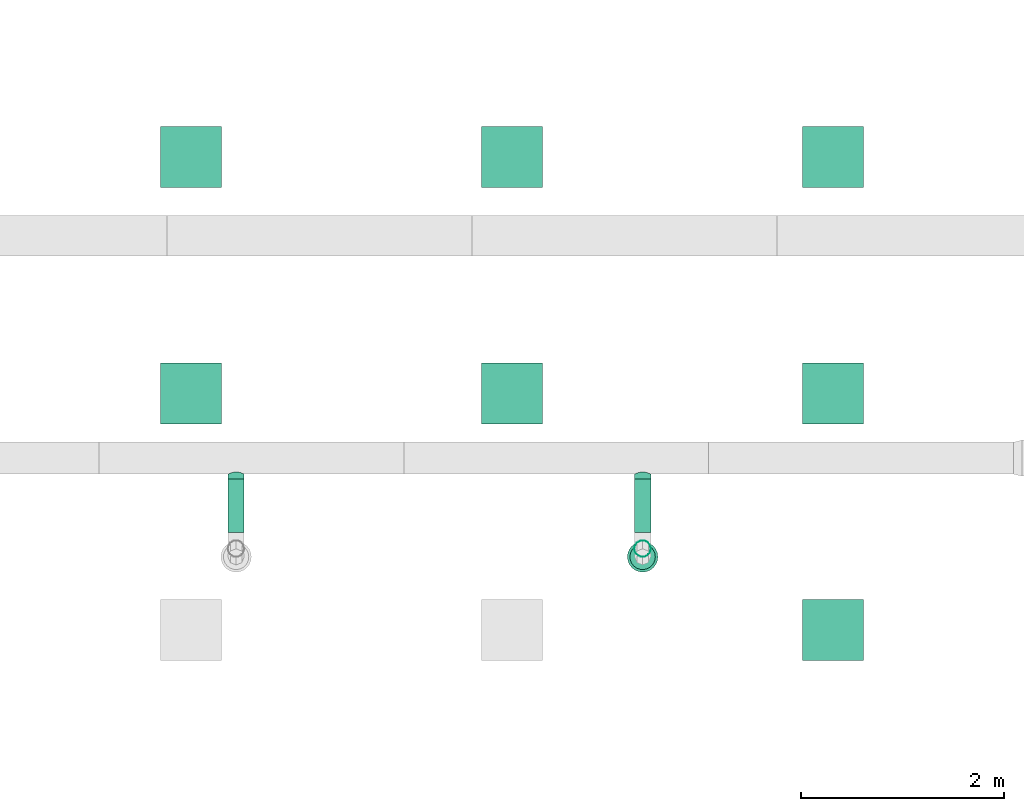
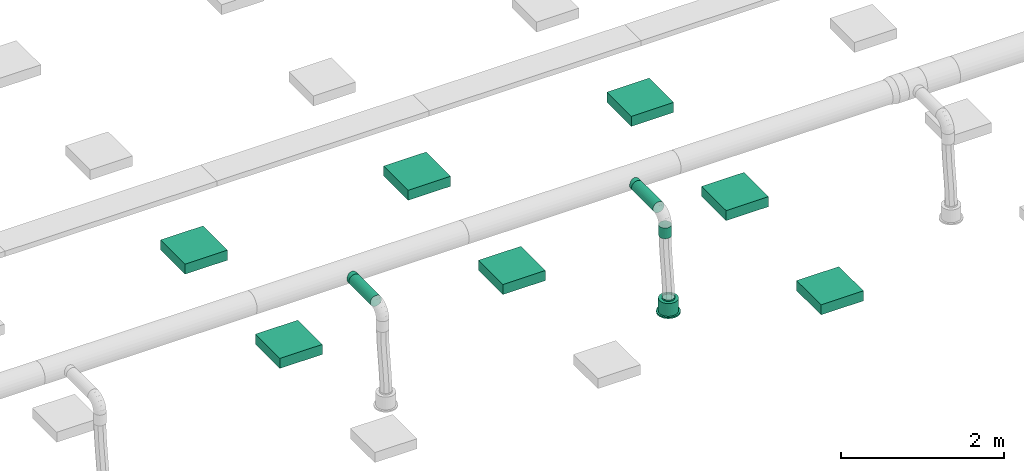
# One storey, part 23 of 374: 7 distribution elements, 5 flow segments, 1 flow terminal.
"""IFC2X3 building model written with IfcOpenShell, lengths in metres."""

from ifc_helpers import new_model, si_unit, direction, frame, frame_2d, origin, place, context, subcontext, project, spatial, rectangle, extrude, open_shell, surface_model, source, transform, mapped, element, save


model = new_model("IFC2X3")

# Units and contexts
model_context = context("Model", 3, precision=1e-05, world=origin(), true_north=direction((-0.4480736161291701, 0.8939966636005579)))
body_context = subcontext(model_context, "Body", "Model", "MODEL_VIEW")
ifc_project = project(units=[si_unit("LENGTHUNIT", "METRE"), si_unit("AREAUNIT", "SQUARE_METRE"), si_unit("VOLUMEUNIT", "CUBIC_METRE"), si_unit("PLANEANGLEUNIT", "RADIAN"), si_unit("THERMODYNAMICTEMPERATUREUNIT", "KELVIN"), si_unit("MASSUNIT", "GRAM", prefix="KILO"), si_unit("TIMEUNIT", "SECOND")], contexts=[model_context])

# Site, building, storey
site_placement = place(None, origin())
site = spatial("IfcSite", under=ifc_project, at=site_placement, Name="Site 1", CompositionType="ELEMENT")
building_placement = place(site_placement, origin())
building = spatial("IfcBuilding", under=site, at=building_placement, Name="Undefined", CompositionType="ELEMENT")
storey_placement = place(building_placement, origin())
storey = spatial("IfcBuildingStorey", under=building, at=storey_placement, Name="Rez de chauss\x8ee", CompositionType="ELEMENT", Elevation=0.0)

# Flow terminal
shared_shape_1 = source(origin(), body_context, "Body", "SurfaceModel", [
    surface_model("IfcFaceBasedSurfaceModel", [(0.0, 0.0, 0.0), (0.03915785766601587, 0.0, 0.0), (0.03915785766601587, 0.020000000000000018, 0.0), (3.552713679e-15, 0.020000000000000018, 0.0), (0.07698144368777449, 0.0, -0.010134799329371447), (0.07698144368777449, 0.020000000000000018, -0.010134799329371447), (0.11089314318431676, 0.0, -0.02971372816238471), (0.11089314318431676, 0.020000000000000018, -0.02971372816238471), (0.13858192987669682, 0.0, -0.05740251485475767), (0.13858192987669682, 0.020000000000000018, -0.05740251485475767), (0.15816085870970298, 0.0, -0.09131421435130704), (0.15816085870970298, 0.020000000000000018, -0.09131421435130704), (0.16829565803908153, 0.0, -0.12913780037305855), (0.16829565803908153, 0.020000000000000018, -0.12913780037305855), (0.16829565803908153, 0.0, -0.16829565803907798), (0.16829565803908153, 0.020000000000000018, -0.16829565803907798), (0.15816085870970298, 0.0, -0.20611924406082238), (0.15816085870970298, 0.020000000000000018, -0.20611924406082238), (0.13858192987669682, 0.0, -0.24003094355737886), (0.13858192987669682, 0.020000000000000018, -0.24003094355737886), (0.11089314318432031, 0.0, -0.2677197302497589), (0.11089314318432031, 0.020000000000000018, -0.2677197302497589), (0.07698144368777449, 0.0, -0.2872986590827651), (0.07698144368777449, 0.020000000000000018, -0.2872986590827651), (0.039157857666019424, 0.0, -0.29743345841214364), (0.039157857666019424, 0.020000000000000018, -0.29743345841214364), (3.552713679e-15, 0.0, -0.29743345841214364), (3.552713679e-15, 0.020000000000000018, -0.29743345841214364), (-0.03782358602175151, 0.0, -0.2872986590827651), (-0.03782358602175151, 0.020000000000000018, -0.2872986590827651), (-0.07173528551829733, 0.0, -0.2677197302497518), (-0.07173528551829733, 0.020000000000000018, -0.2677197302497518), (-0.0994240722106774, 0.0, -0.24003094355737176), (-0.0994240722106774, 0.020000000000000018, -0.24003094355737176), (-0.11900300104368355, 0.0, -0.2061192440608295), (-0.11900300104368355, 0.020000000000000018, -0.2061192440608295), (-0.1291378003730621, 0.0, -0.16829565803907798), (-0.1291378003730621, 0.020000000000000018, -0.16829565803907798), (-0.1291378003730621, 0.0, -0.12913780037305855), (-0.1291378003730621, 0.020000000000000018, -0.12913780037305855), (-0.11900300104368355, 0.0, -0.09131421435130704), (-0.11900300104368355, 0.020000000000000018, -0.09131421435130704), (-0.0994240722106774, 0.0, -0.05740251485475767), (-0.0994240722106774, 0.020000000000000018, -0.05740251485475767), (-0.07173528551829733, 0.0, -0.029713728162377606), (-0.07173528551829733, 0.020000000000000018, -0.029713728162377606), (-0.03782358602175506, 0.0, -0.010134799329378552), (-0.03782358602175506, 0.020000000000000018, -0.010134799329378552), (0.019578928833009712, 0.0, -0.14871672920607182), (0.019578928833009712, 0.020000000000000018, -0.14871672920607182), (0.003263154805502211, 0.020000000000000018, -0.02478612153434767), (0.035894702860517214, 0.020000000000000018, -0.02478612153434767), (0.035894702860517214, 0.20999999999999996, -0.02478612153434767), (0.003263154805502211, 0.20999999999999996, -0.02478612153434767), (0.06741435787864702, 0.020000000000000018, -0.033231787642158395), (0.06741435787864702, 0.20999999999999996, -0.033231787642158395), (0.0956741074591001, 0.020000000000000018, -0.04954756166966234), (0.0956741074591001, 0.20999999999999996, -0.04954756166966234), (0.11874809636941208, 0.020000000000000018, -0.07262155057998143), (0.11874809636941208, 0.20999999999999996, -0.07262155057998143), (0.13506387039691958, 0.020000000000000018, -0.10088130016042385), (0.13506387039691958, 0.20999999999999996, -0.10088130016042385), (0.1435095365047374, 0.020000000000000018, -0.13240095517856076), (0.1435095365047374, 0.20999999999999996, -0.13240095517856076), (0.1435095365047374, 0.020000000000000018, -0.16503250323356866), (0.1435095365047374, 0.20999999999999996, -0.16503250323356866), (0.13506387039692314, 0.020000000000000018, -0.19655215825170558), (0.13506387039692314, 0.20999999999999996, -0.19655215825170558), (0.11874809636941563, 0.020000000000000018, -0.2248119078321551), (0.11874809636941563, 0.20999999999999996, -0.2248119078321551), (0.09567410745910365, 0.020000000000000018, -0.24788589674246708), (0.09567410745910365, 0.20999999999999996, -0.24788589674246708), (0.06741435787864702, 0.020000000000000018, -0.26420167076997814), (0.06741435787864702, 0.20999999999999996, -0.26420167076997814), (0.035894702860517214, 0.020000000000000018, -0.27264733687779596), (0.035894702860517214, 0.20999999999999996, -0.27264733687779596), (0.0032631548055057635, 0.020000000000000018, -0.27264733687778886), (0.0032631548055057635, 0.20999999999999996, -0.27264733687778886), (-0.028256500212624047, 0.020000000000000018, -0.26420167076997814), (-0.028256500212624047, 0.20999999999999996, -0.26420167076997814), (-0.05651624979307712, 0.020000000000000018, -0.2478858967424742), (-0.05651624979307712, 0.20999999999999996, -0.2478858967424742), (-0.07959023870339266, 0.020000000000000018, -0.2248119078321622), (-0.07959023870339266, 0.20999999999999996, -0.2248119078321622), (-0.09590601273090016, 0.020000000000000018, -0.19655215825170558), (-0.09590601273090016, 0.20999999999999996, -0.19655215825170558), (-0.10435167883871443, 0.020000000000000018, -0.16503250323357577), (-0.10435167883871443, 0.20999999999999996, -0.16503250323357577), (-0.10435167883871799, 0.020000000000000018, -0.13240095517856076), (-0.10435167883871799, 0.20999999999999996, -0.13240095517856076), (-0.09590601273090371, 0.020000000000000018, -0.10088130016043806), (-0.09590601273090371, 0.20999999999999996, -0.10088130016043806), (-0.07959023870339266, 0.020000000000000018, -0.07262155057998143), (-0.07959023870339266, 0.20999999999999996, -0.07262155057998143), (-0.056516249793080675, 0.020000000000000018, -0.04954756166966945), (-0.056516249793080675, 0.20999999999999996, -0.04954756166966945), (-0.028256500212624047, 0.020000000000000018, -0.033231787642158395), (-0.028256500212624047, 0.20999999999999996, -0.033231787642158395), (0.019578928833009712, 0.20999999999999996, -0.14871672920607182), (0.009136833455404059, 0.20999999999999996, -0.06940114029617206), (0.030021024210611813, 0.20999999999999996, -0.06940114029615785), (0.030021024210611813, 0.22999999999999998, -0.06940114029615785), (0.009136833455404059, 0.22999999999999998, -0.06940114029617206), (0.05019360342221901, 0.20999999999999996, -0.07480636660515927), (0.05019360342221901, 0.22999999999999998, -0.07480636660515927), (0.06827984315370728, 0.20999999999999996, -0.08524846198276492), (0.06827984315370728, 0.22999999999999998, -0.08524846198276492), (0.0830471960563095, 0.20999999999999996, -0.10001581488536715), (0.0830471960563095, 0.22999999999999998, -0.10001581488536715), (0.0934892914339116, 0.20999999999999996, -0.11810205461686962), (0.0934892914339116, 0.22999999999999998, -0.11810205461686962), (0.09889451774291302, 0.20999999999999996, -0.13827463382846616), (0.09889451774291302, 0.22999999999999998, -0.13827463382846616), (0.09889451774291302, 0.20999999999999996, -0.15915882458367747), (0.09889451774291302, 0.22999999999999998, -0.15915882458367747), (0.09348929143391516, 0.20999999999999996, -0.179331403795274), (0.09348929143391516, 0.22999999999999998, -0.179331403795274), (0.0830471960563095, 0.20999999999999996, -0.19741764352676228), (0.0830471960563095, 0.22999999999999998, -0.19741764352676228), (0.06827984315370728, 0.20999999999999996, -0.2121849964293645), (0.06827984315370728, 0.22999999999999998, -0.2121849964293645), (0.05019360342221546, 0.20999999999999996, -0.22262709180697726), (0.05019360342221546, 0.22999999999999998, -0.22262709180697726), (0.030021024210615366, 0.20999999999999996, -0.22803231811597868), (0.030021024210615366, 0.22999999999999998, -0.22803231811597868), (0.009136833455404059, 0.20999999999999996, -0.22803231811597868), (0.009136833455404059, 0.22999999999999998, -0.22803231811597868), (-0.011035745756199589, 0.20999999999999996, -0.22262709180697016), (-0.011035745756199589, 0.22999999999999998, -0.22262709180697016), (-0.0291219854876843, 0.20999999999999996, -0.2121849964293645), (-0.0291219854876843, 0.22999999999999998, -0.2121849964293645), (-0.043889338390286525, 0.20999999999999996, -0.19741764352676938), (-0.043889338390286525, 0.22999999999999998, -0.19741764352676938), (-0.05433143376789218, 0.20999999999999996, -0.17933140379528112), (-0.05433143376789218, 0.22999999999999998, -0.17933140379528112), (-0.05973666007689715, 0.20999999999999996, -0.15915882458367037), (-0.05973666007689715, 0.22999999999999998, -0.15915882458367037), (-0.0597366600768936, 0.20999999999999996, -0.13827463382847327), (-0.0597366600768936, 0.22999999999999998, -0.13827463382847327), (-0.05433143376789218, 0.20999999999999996, -0.11810205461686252), (-0.05433143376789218, 0.22999999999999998, -0.11810205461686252), (-0.043889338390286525, 0.20999999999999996, -0.10001581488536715), (-0.043889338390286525, 0.22999999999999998, -0.10001581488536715), (-0.02912198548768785, 0.20999999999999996, -0.08524846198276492), (-0.02912198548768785, 0.22999999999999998, -0.08524846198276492), (-0.011035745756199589, 0.20999999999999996, -0.07480636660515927), (-0.011035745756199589, 0.22999999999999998, -0.07480636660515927)], [open_shell([[[0, 1, 2, 3]], [[1, 4, 5, 2]], [[4, 6, 7, 5]], [[6, 8, 9, 7]], [[8, 10, 11, 9]], [[10, 12, 13, 11]], [[12, 14, 15, 13]], [[14, 16, 17, 15]], [[16, 18, 19, 17]], [[18, 20, 21, 19]], [[20, 22, 23, 21]], [[22, 24, 25, 23]], [[24, 26, 27, 25]], [[26, 28, 29, 27]], [[28, 30, 31, 29]], [[30, 32, 33, 31]], [[32, 34, 35, 33]], [[34, 36, 37, 35]], [[36, 38, 39, 37]], [[38, 40, 41, 39]], [[40, 42, 43, 41]], [[42, 44, 45, 43]], [[44, 46, 47, 45]], [[46, 0, 3, 47]], [[48, 1, 0]], [[48, 4, 1]], [[48, 6, 4]], [[48, 8, 6]], [[48, 10, 8]], [[48, 12, 10]], [[48, 14, 12]], [[48, 16, 14]], [[48, 18, 16]], [[48, 20, 18]], [[48, 22, 20]], [[48, 24, 22]], [[48, 26, 24]], [[48, 28, 26]], [[48, 30, 28]], [[48, 32, 30]], [[48, 34, 32]], [[48, 36, 34]], [[48, 38, 36]], [[48, 40, 38]], [[48, 42, 40]], [[48, 44, 42]], [[48, 46, 44]], [[48, 0, 46]], [[49, 47, 3]], [[49, 45, 47]], [[49, 43, 45]], [[49, 41, 43]], [[49, 39, 41]], [[49, 37, 39]], [[49, 35, 37]], [[49, 33, 35]], [[49, 31, 33]], [[49, 29, 31]], [[49, 27, 29]], [[49, 25, 27]], [[49, 23, 25]], [[49, 21, 23]], [[49, 19, 21]], [[49, 17, 19]], [[49, 15, 17]], [[49, 13, 15]], [[49, 11, 13]], [[49, 9, 11]], [[49, 7, 9]], [[49, 5, 7]], [[49, 2, 5]], [[49, 3, 2]], [[50, 51, 52, 53]], [[51, 54, 55, 52]], [[54, 56, 57, 55]], [[56, 58, 59, 57]], [[58, 60, 61, 59]], [[60, 62, 63, 61]], [[62, 64, 65, 63]], [[64, 66, 67, 65]], [[66, 68, 69, 67]], [[68, 70, 71, 69]], [[70, 72, 73, 71]], [[72, 74, 75, 73]], [[74, 76, 77, 75]], [[76, 78, 79, 77]], [[78, 80, 81, 79]], [[80, 82, 83, 81]], [[82, 84, 85, 83]], [[84, 86, 87, 85]], [[86, 88, 89, 87]], [[88, 90, 91, 89]], [[90, 92, 93, 91]], [[92, 94, 95, 93]], [[94, 96, 97, 95]], [[96, 50, 53, 97]], [[49, 51, 50]], [[49, 54, 51]], [[49, 56, 54]], [[49, 58, 56]], [[49, 60, 58]], [[49, 62, 60]], [[49, 64, 62]], [[49, 66, 64]], [[49, 68, 66]], [[49, 70, 68]], [[49, 72, 70]], [[49, 74, 72]], [[49, 76, 74]], [[49, 78, 76]], [[49, 80, 78]], [[49, 82, 80]], [[49, 84, 82]], [[49, 86, 84]], [[49, 88, 86]], [[49, 90, 88]], [[49, 92, 90]], [[49, 94, 92]], [[49, 96, 94]], [[49, 50, 96]], [[98, 97, 53]], [[98, 95, 97]], [[98, 93, 95]], [[98, 91, 93]], [[98, 89, 91]], [[98, 87, 89]], [[98, 85, 87]], [[98, 83, 85]], [[98, 81, 83]], [[98, 79, 81]], [[98, 77, 79]], [[98, 75, 77]], [[98, 73, 75]], [[98, 71, 73]], [[98, 69, 71]], [[98, 67, 69]], [[98, 65, 67]], [[98, 63, 65]], [[98, 61, 63]], [[98, 59, 61]], [[98, 57, 59]], [[98, 55, 57]], [[98, 52, 55]], [[98, 53, 52]], [[99, 100, 101, 102]], [[100, 103, 104, 101]], [[103, 105, 106, 104]], [[105, 107, 108, 106]], [[107, 109, 110, 108]], [[109, 111, 112, 110]], [[111, 113, 114, 112]], [[113, 115, 116, 114]], [[115, 117, 118, 116]], [[117, 119, 120, 118]], [[119, 121, 122, 120]], [[121, 123, 124, 122]], [[123, 125, 126, 124]], [[125, 127, 128, 126]], [[127, 129, 130, 128]], [[129, 131, 132, 130]], [[131, 133, 134, 132]], [[133, 135, 136, 134]], [[135, 137, 138, 136]], [[137, 139, 140, 138]], [[139, 141, 142, 140]], [[141, 143, 144, 142]], [[143, 145, 146, 144]], [[145, 99, 102, 146]]])]),
])
flow_terminal_placement = place(storey_placement, origin())
element("IfcFlowTerminal", 1, at=flow_terminal_placement, inside=storey, Name="Air diffuseur - bouche", ObjectType="Air diffuseur - bouche", context=body_context, shape_type="MappedRepresentation", body=[
    mapped(shared_shape_1, transform((18.290000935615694, 2.0299997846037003, 2.38), x_axis=(-0.9914448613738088, -0.13052619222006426, 0.0), y_axis=(0.0, 0.0, 1.0), z_axis=(-0.13052619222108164, 0.9914448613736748, 0.0))),
])

# Flow segments
shared_shape_2 = source(origin(), body_context, "Body", "SurfaceModel", [
    surface_model("IfcFaceBasedSurfaceModel", [(0.0013669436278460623, 0.02088419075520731, 0.0), (0.0, 0.0, 0.0), (0.05136694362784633, -8.8817842e-16, 0.0), (0.05136694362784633, 0.02088419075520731, 0.0), (-0.0037970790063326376, -0.020172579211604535, -0.005405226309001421), (0.05136694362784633, -0.020172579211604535, -0.005405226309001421), (-0.009142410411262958, -0.03825881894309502, -0.015847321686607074), (0.05136694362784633, -0.03825881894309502, -0.015847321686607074), (-0.014689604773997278, -0.05302617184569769, -0.030614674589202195), (0.05136694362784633, -0.05302617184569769, -0.030614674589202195), (-0.018892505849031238, -0.06346826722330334, -0.04870091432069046), (0.05136694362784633, -0.06346826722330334, -0.04870091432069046), (-0.020463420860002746, -0.06887349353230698, -0.0688734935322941), (0.05136694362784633, -0.06887349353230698, -0.0688734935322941), (-0.018892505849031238, -0.06887349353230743, -0.08975768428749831), (0.05136694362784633, -0.06887349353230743, -0.08975768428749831), (-0.014689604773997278, -0.06346826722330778, -0.10993026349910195), (0.05136694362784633, -0.06346826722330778, -0.10993026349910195), (-0.009142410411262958, -0.05302617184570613, -0.12801650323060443), (0.05136694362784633, -0.05302617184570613, -0.12801650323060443), (-0.0037970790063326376, -0.03825881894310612, -0.14278385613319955), (0.05136694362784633, -0.03825881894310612, -0.14278385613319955), (0.0, -0.020172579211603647, -0.15322595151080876), (0.05136694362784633, -0.020172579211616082, -0.1532259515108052), (0.0013669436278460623, -1.3766765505e-14, -0.15863117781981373), (0.05136694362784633, -1.3766765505e-14, -0.15863117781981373), (0.0, 0.020884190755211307, -0.15863117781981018), (0.05136694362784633, 0.02088419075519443, -0.15863117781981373), (-0.0037970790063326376, 0.041056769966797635, -0.1532259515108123), (0.05136694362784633, 0.041056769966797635, -0.1532259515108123), (-0.009142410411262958, 0.05914300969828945, -0.14278385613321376), (0.05136694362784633, 0.05914300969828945, -0.14278385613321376), (-0.014689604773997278, 0.07391036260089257, -0.12801650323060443), (0.05136694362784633, 0.07391036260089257, -0.12801650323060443), (-0.018892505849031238, 0.08435245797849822, -0.10993026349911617), (0.05136694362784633, 0.08435245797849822, -0.10993026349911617), (-0.020463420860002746, 0.08975768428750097, -0.08975768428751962), (0.05136694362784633, 0.08975768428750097, -0.08975768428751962), (-0.018892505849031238, 0.0897576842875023, -0.06887349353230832), (0.05136694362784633, 0.0897576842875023, -0.06887349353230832), (-0.014689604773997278, 0.08435245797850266, -0.04870091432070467), (0.05136694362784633, 0.08435245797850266, -0.04870091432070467), (-0.009142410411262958, 0.07391036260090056, -0.030614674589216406), (0.05136694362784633, 0.07391036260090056, -0.030614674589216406), (-0.0037970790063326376, 0.05914300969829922, -0.01584732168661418), (0.05136694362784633, 0.05914300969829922, -0.01584732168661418), (0.0, 0.04105676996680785, -0.005405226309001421), (0.05136694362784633, 0.04105676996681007, -0.005405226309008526)], [open_shell([[[0, 1, 2, 3]], [[1, 4, 5, 2]], [[4, 6, 7, 5]], [[6, 8, 9, 7]], [[8, 10, 11, 9]], [[10, 12, 13, 11]], [[12, 14, 15, 13]], [[14, 16, 17, 15]], [[16, 18, 19, 17]], [[18, 20, 21, 19]], [[20, 22, 23, 21]], [[22, 24, 25, 23]], [[24, 26, 27, 25]], [[26, 28, 29, 27]], [[28, 30, 31, 29]], [[30, 32, 33, 31]], [[32, 34, 35, 33]], [[34, 36, 37, 35]], [[36, 38, 39, 37]], [[38, 40, 41, 39]], [[40, 42, 43, 41]], [[42, 44, 45, 43]], [[44, 46, 47, 45]], [[46, 0, 3, 47]]])]),
])
flow_segment_1_placement = place(storey_placement, origin())
element("IfcFlowSegment", 2, at=flow_segment_1_placement, inside=storey, Name="Piquage équerre circulaire", ObjectType="Piquage équerre circulaire", context=body_context, shape_type="MappedRepresentation", body=[
    mapped(shared_shape_2, transform((18.212726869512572, 2.6951646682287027, 3.779294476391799), x_axis=(0.0, -1.0, 0.0), y_axis=(-0.13052619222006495, 0.0, 0.9914448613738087), z_axis=(-0.9914448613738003, 0.0, -0.13052619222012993))),
])
flow_segment_2_placement = place(storey_placement, origin())
element("IfcFlowSegment", 3, at=flow_segment_2_placement, inside=storey, Name="Piquage équerre circulaire", ObjectType="Piquage équerre circulaire", context=body_context, shape_type="MappedRepresentation", body=[
    mapped(shared_shape_2, transform((14.21272686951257, 2.6951646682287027, 3.779294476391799), x_axis=(0.0, -1.0, 0.0), y_axis=(-0.13052619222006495, 0.0, 0.9914448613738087), z_axis=(-0.9914448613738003, 0.0, -0.13052619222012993))),
])
shared_shape_3 = source(origin(), body_context, "Body", "SurfaceModel", [
    surface_model("IfcFaceBasedSurfaceModel", [(0.0, 0.020884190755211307, 0.0), (0.0, 0.0, 0.0), (0.16000000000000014, 0.0, -4.4408921e-16), (0.16000000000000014, 0.0208841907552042, -4.4408921e-16), (0.0, -0.020172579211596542, -0.005405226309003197), (0.16000000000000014, -0.020172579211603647, -0.005405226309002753), (0.0, -0.03825881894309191, -0.015847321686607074), (0.16000000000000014, -0.03825881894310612, -0.015847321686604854), (0.0, -0.05302617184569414, -0.0306146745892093), (0.16000000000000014, -0.05302617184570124, -0.03061467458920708), (0.0, -0.06346826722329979, -0.04870091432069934), (0.16000000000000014, -0.0634682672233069, -0.04870091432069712), (0.0, -0.06887349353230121, -0.06887349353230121), (0.16000000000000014, -0.06887349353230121, -0.06887349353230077), (0.0, -0.06887349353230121, -0.08975768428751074), (0.16000000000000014, -0.06887349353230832, -0.08975768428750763), (0.0, -0.06346826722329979, -0.10993026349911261), (0.16000000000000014, -0.0634682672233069, -0.10993026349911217), (0.0, -0.05302617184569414, -0.12801650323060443), (0.16000000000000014, -0.05302617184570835, -0.1280165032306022), (0.0, -0.038258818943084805, -0.14278385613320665), (0.16000000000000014, -0.03825881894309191, -0.14278385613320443), (0.0, -0.020172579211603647, -0.15322595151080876), (0.16000000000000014, -0.020172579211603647, -0.1532259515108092), (0.0, 7.105427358e-15, -0.15863117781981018), (0.16000000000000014, -7.105427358e-15, -0.15863117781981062), (0.0, 0.020884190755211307, -0.15863117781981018), (0.16000000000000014, 0.0208841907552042, -0.15863117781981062), (0.0, 0.04105676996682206, -0.15322595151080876), (0.16000000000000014, 0.04105676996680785, -0.1532259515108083), (0.0, 0.05914300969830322, -0.1427838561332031), (0.16000000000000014, 0.05914300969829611, -0.14278385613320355), (0.0, 0.07391036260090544, -0.12801650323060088), (0.16000000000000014, 0.07391036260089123, -0.1280165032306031), (0.0, 0.0843524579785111, -0.10993026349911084), (0.16000000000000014, 0.08435245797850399, -0.10993026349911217), (0.0, 0.08975768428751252, -0.08975768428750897), (0.16000000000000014, 0.08975768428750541, -0.08975768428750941), (0.0, 0.08975768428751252, -0.06887349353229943), (0.16000000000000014, 0.08975768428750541, -0.06887349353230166), (0.0, 0.0843524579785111, -0.048700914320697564), (0.16000000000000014, 0.08435245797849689, -0.04870091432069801), (0.0, 0.07391036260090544, -0.030614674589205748), (0.16000000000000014, 0.07391036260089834, -0.03061467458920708), (0.0, 0.05914300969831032, -0.015847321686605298), (0.16000000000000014, 0.05914300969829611, -0.01584732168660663), (0.0, 0.04105676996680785, -0.005405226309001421), (0.16000000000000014, 0.04105676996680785, -0.005405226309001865)], [open_shell([[[0, 1, 2, 3]], [[1, 4, 5, 2]], [[4, 6, 7, 5]], [[6, 8, 9, 7]], [[8, 10, 11, 9]], [[10, 12, 13, 11]], [[12, 14, 15, 13]], [[14, 16, 17, 15]], [[16, 18, 19, 17]], [[18, 20, 21, 19]], [[20, 22, 23, 21]], [[22, 24, 25, 23]], [[24, 26, 27, 25]], [[26, 28, 29, 27]], [[28, 30, 31, 29]], [[30, 32, 33, 31]], [[32, 34, 35, 33]], [[34, 36, 37, 35]], [[36, 38, 39, 37]], [[38, 40, 41, 39]], [[40, 42, 43, 41]], [[42, 44, 45, 43]], [[44, 46, 47, 45]], [[46, 0, 3, 47]]])]),
])
flow_segment_3_placement = place(storey_placement, origin())
element("IfcFlowSegment", 4, at=flow_segment_3_placement, inside=storey, Name="Tube", ObjectType="Tube", context=body_context, shape_type="MappedRepresentation", body=[
    mapped(shared_shape_3, transform((18.269295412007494, 2.0372738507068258, 3.4800000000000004), x_axis=(0.0, 0.0, 1.0), y_axis=(0.9914448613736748, 0.13052619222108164, 0.0), z_axis=(-0.13052619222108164, 0.9914448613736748, 0.0))),
])
shared_shape_4 = source(origin(), body_context, "Body", "SurfaceModel", [
    surface_model("IfcFaceBasedSurfaceModel", [(0.0, 0.020884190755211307, 0.0), (0.0, 0.0, 0.0), (0.5237979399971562, 0.0, -4.4408921e-16), (0.5237979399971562, 0.020884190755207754, -4.4408921e-16), (0.0, -0.020172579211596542, -0.005405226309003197), (0.5237979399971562, -0.020172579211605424, -0.005405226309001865), (0.0, -0.03825881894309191, -0.015847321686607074), (0.5237979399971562, -0.038258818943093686, -0.01584732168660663), (0.0, -0.05302617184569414, -0.0306146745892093), (0.5237979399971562, -0.05302617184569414, -0.03061467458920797), (0.0, -0.06346826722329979, -0.04870091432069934), (0.5237979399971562, -0.06346826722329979, -0.04870091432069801), (0.0, -0.06887349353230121, -0.06887349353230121), (0.5237979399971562, -0.06887349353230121, -0.06887349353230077), (0.0, -0.06887349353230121, -0.08975768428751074), (0.5237979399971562, -0.06887349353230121, -0.08975768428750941), (0.0, -0.06346826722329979, -0.10993026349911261), (0.5237979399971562, -0.06346826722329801, -0.10993026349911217), (0.0, -0.05302617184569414, -0.12801650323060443), (0.5237979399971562, -0.05302617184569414, -0.1280165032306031), (0.0, -0.038258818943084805, -0.14278385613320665), (0.5237979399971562, -0.038258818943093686, -0.14278385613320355), (0.0, -0.020172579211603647, -0.15322595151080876), (0.5237979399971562, -0.02017257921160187, -0.15322595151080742), (0.0, 7.105427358e-15, -0.15863117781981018), (0.5237979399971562, 0.0, -0.15863117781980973), (0.0, 0.020884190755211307, -0.15863117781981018), (0.5237979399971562, 0.02088419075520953, -0.1586311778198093), (0.0, 0.04105676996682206, -0.15322595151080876), (0.5237979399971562, 0.0410567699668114, -0.15322595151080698), (0.0, 0.05914300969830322, -0.1427838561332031), (0.5237979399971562, 0.05914300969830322, -0.14278385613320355), (0.0, 0.07391036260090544, -0.12801650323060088), (0.5237979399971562, 0.07391036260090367, -0.12801650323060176), (0.0, 0.0843524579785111, -0.10993026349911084), (0.5237979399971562, 0.08435245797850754, -0.10993026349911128), (0.0, 0.08975768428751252, -0.08975768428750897), (0.5237979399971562, 0.08975768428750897, -0.08975768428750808), (0.0, 0.08975768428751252, -0.06887349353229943), (0.5237979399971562, 0.08975768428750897, -0.06887349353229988), (0.0, 0.0843524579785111, -0.048700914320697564), (0.5237979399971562, 0.08435245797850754, -0.04870091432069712), (0.0, 0.07391036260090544, -0.030614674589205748), (0.5237979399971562, 0.07391036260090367, -0.03061467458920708), (0.0, 0.05914300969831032, -0.015847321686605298), (0.5237979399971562, 0.059143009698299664, -0.015847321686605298), (0.0, 0.04105676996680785, -0.005405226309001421), (0.5237979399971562, 0.0410567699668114, -0.005405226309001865)], [open_shell([[[0, 1, 2, 3]], [[1, 4, 5, 2]], [[4, 6, 7, 5]], [[6, 8, 9, 7]], [[8, 10, 11, 9]], [[10, 12, 13, 11]], [[12, 14, 15, 13]], [[14, 16, 17, 15]], [[16, 18, 19, 17]], [[18, 20, 21, 19]], [[20, 22, 23, 21]], [[22, 24, 25, 23]], [[24, 26, 27, 25]], [[26, 28, 29, 27]], [[28, 30, 31, 29]], [[30, 32, 33, 31]], [[32, 34, 35, 33]], [[34, 36, 37, 35]], [[36, 38, 39, 37]], [[38, 40, 41, 39]], [[40, 42, 43, 41]], [[42, 44, 45, 43]], [[44, 46, 47, 45]], [[46, 0, 3, 47]]])]),
])
flow_segment_4_placement = place(storey_placement, origin())
element("IfcFlowSegment", 5, at=flow_segment_4_placement, inside=storey, Name="Tube", ObjectType="Tube", context=body_context, shape_type="MappedRepresentation", body=[
    mapped(shared_shape_4, transform((18.269295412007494, 2.643797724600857, 3.877274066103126), x_axis=(0.0, -1.0, 0.0), y_axis=(0.9914448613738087, 0.0, 0.13052619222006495), z_axis=(-0.13052619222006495, 0.0, 0.9914448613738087))),
])
flow_segment_5_placement = place(storey_placement, origin())
element("IfcFlowSegment", 6, at=flow_segment_5_placement, inside=storey, Name="Tube", ObjectType="Tube", context=body_context, shape_type="MappedRepresentation", body=[
    mapped(shared_shape_4, transform((14.269295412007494, 2.643797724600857, 3.877274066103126), x_axis=(0.0, -1.0, 0.0), y_axis=(0.9914448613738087, 0.0, 0.13052619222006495), z_axis=(-0.13052619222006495, 0.0, 0.9914448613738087))),
])

# Distribution elements
distribution_element_1_placement = place(storey_placement, origin())
element("IfcDistributionElement", 7, at=distribution_element_1_placement, inside=storey, Name="Decken-Rechteckleuchte mit Rahmen AP", ObjectType="Decken-Rechteckleuchte mit Rahmen AP", context=body_context, shape_type="SweptSolid", body=[
    extrude(rectangle(XDim=0.6000000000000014, YDim=0.6000000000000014, at=frame_2d((3.552713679e-15, 0.0), x_axis=(0.0, 1.0))), frame((20.162598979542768, 5.8125, 2.5500000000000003), z_axis=(0.0, 0.0, -1.0), x_axis=(1.0, 0.0, 0.0)), (0.0, 0.0, 1.0), 0.15),
])
distribution_element_2_placement = place(storey_placement, origin())
element("IfcDistributionElement", 8, at=distribution_element_2_placement, inside=storey, Name="Decken-Rechteckleuchte mit Rahmen AP", ObjectType="Decken-Rechteckleuchte mit Rahmen AP", context=body_context, shape_type="SweptSolid", body=[
    extrude(rectangle(XDim=0.6000000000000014, YDim=0.6000000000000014, at=frame_2d((3.552713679e-15, 0.0), x_axis=(0.0, 1.0))), frame((17.004756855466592, 3.4875, 2.5500000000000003), z_axis=(0.0, 0.0, -1.0), x_axis=(1.0, 0.0, 0.0)), (0.0, 0.0, 1.0), 0.15),
])
distribution_element_3_placement = place(storey_placement, origin())
element("IfcDistributionElement", 9, at=distribution_element_3_placement, inside=storey, Name="Decken-Rechteckleuchte mit Rahmen AP", ObjectType="Decken-Rechteckleuchte mit Rahmen AP", context=body_context, shape_type="SweptSolid", body=[
    extrude(rectangle(XDim=0.6000000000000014, YDim=0.6000000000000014, at=frame_2d((3.552713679e-15, 0.0), x_axis=(0.0, 1.0))), frame((20.162599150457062, 1.1625, 2.5500000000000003), z_axis=(0.0, 0.0, -1.0), x_axis=(1.0, 0.0, 0.0)), (0.0, 0.0, 1.0), 0.15),
])
distribution_element_4_placement = place(storey_placement, origin())
element("IfcDistributionElement", 10, at=distribution_element_4_placement, inside=storey, Name="Decken-Rechteckleuchte mit Rahmen AP", ObjectType="Decken-Rechteckleuchte mit Rahmen AP", context=body_context, shape_type="SweptSolid", body=[
    extrude(rectangle(XDim=0.6000000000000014, YDim=0.6000000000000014, at=frame_2d((3.552713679e-15, 0.0), x_axis=(0.0, 1.0))), frame((13.846914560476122, 3.4875, 2.5500000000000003), z_axis=(0.0, 0.0, -1.0), x_axis=(1.0, 0.0, 0.0)), (0.0, 0.0, 1.0), 0.15),
])
distribution_element_5_placement = place(storey_placement, origin())
element("IfcDistributionElement", 11, at=distribution_element_5_placement, inside=storey, Name="Decken-Rechteckleuchte mit Rahmen AP", ObjectType="Decken-Rechteckleuchte mit Rahmen AP", context=body_context, shape_type="SweptSolid", body=[
    extrude(rectangle(XDim=0.6000000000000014, YDim=0.6000000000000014, at=frame_2d((3.552713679e-15, 0.0), x_axis=(0.0, 1.0))), frame((17.004756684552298, 5.8125, 2.5500000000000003), z_axis=(0.0, 0.0, -1.0), x_axis=(1.0, 0.0, 0.0)), (0.0, 0.0, 1.0), 0.15),
])
distribution_element_6_placement = place(storey_placement, origin())
element("IfcDistributionElement", 12, at=distribution_element_6_placement, inside=storey, Name="Decken-Rechteckleuchte mit Rahmen AP", ObjectType="Decken-Rechteckleuchte mit Rahmen AP", context=body_context, shape_type="SweptSolid", body=[
    extrude(rectangle(XDim=0.6000000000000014, YDim=0.6000000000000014, at=frame_2d((3.552713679e-15, 0.0), x_axis=(0.0, 1.0))), frame((20.162599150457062, 3.4875, 2.5500000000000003), z_axis=(0.0, 0.0, -1.0), x_axis=(1.0, 0.0, 0.0)), (0.0, 0.0, 1.0), 0.15),
])
distribution_element_7_placement = place(storey_placement, origin())
element("IfcDistributionElement", 13, at=distribution_element_7_placement, inside=storey, Name="Decken-Rechteckleuchte mit Rahmen AP", ObjectType="Decken-Rechteckleuchte mit Rahmen AP", context=body_context, shape_type="SweptSolid", body=[
    extrude(rectangle(XDim=0.6000000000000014, YDim=0.6000000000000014, at=frame_2d((3.552713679e-15, 0.0), x_axis=(0.0, 1.0))), frame((13.846914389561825, 5.8125, 2.5500000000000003), z_axis=(0.0, 0.0, -1.0), x_axis=(1.0, 0.0, 0.0)), (0.0, 0.0, 1.0), 0.15),
])

save(model, "model.ifc")
